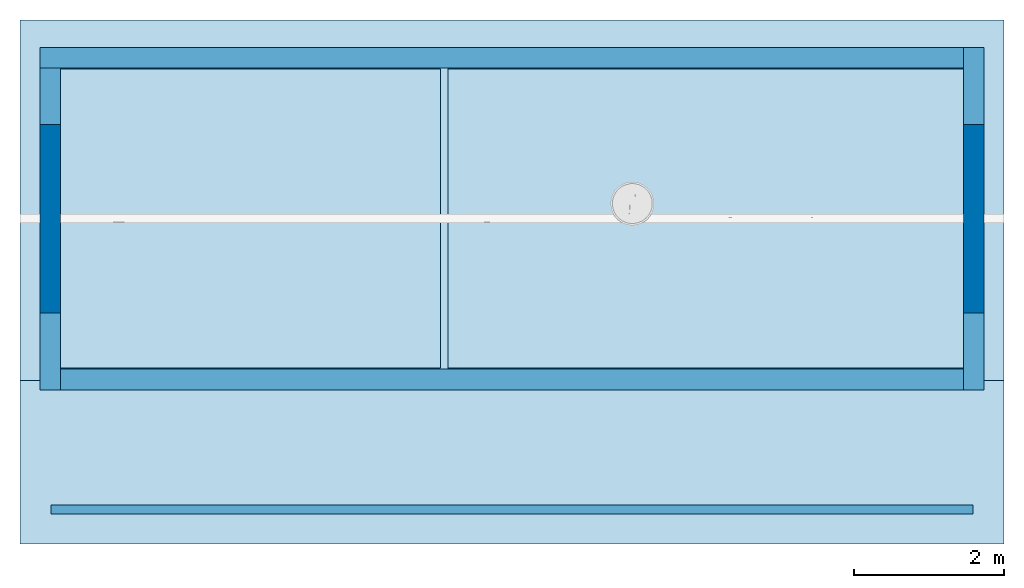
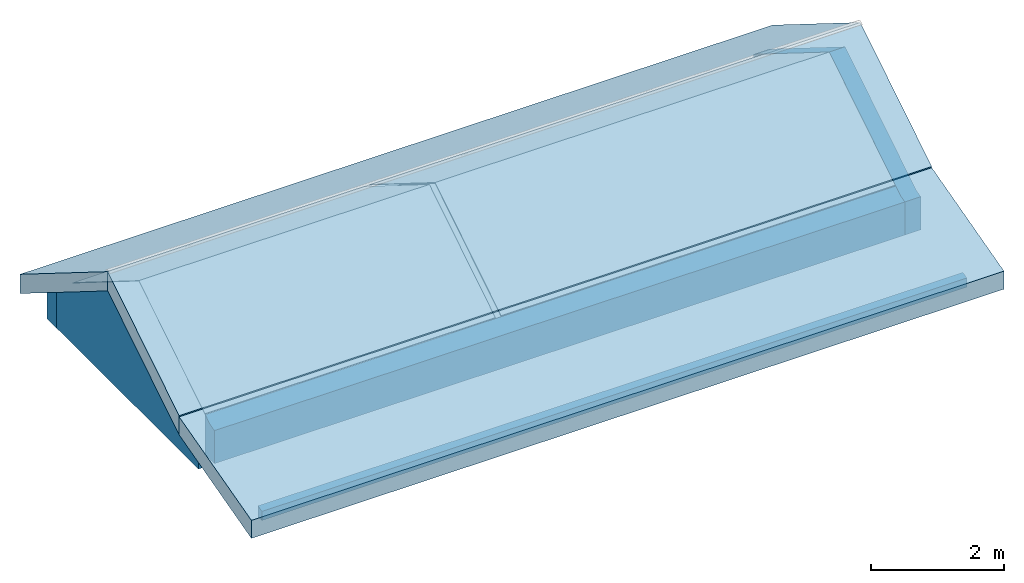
# One storey, incomplete: 8 slabs, 5 walls, 4 elements without a shape of their own.
"""IFC2X3 building model written with IfcOpenShell, lengths in millimetres."""

from ifc_helpers import new_model, entity, si_unit, converted_unit, direction, frame, frame_2d, origin, place, context, subcontext, project, spatial, polyline, rectangle, outline, extrude, clip, bounded_halfspace, material, layer, layer_set, layer_usage, type_object, element, aggregate, save


model = new_model("IFC2X3")

# Units and contexts
model_context = context("Model", 3, precision=0.01, world=origin(), true_north=direction((0.0, 1.0)))
body_context = subcontext(model_context, "Body", "Model", "MODEL_VIEW")
ifc_project = project(units=[si_unit("LENGTHUNIT", "METRE", prefix="MILLI"), si_unit("AREAUNIT", "SQUARE_METRE"), si_unit("VOLUMEUNIT", "CUBIC_METRE"), converted_unit("PLANEANGLEUNIT", "DEGREE", entity("IfcPlaneAngleMeasure", 0.017453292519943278), si_unit("PLANEANGLEUNIT", "RADIAN"), dimensions=[0, 0, 0, 0, 0, 0, 0])], contexts=[model_context])

# Site, building, storey
site_placement = place(None, origin())
site = spatial("IfcSite", under=ifc_project, at=site_placement, Name="Default", CompositionType="ELEMENT")
building_placement = place(site_placement, origin())
building = spatial("IfcBuilding", under=site, at=building_placement, CompositionType="ELEMENT")
storey_placement = place(building_placement, frame((0.0, 0.0, 3100.0)))
storey = spatial("IfcBuildingStorey", under=building, at=storey_placement, Name="Et. 2", CompositionType="ELEMENT", Elevation=3100.0)

# Roof, slabs
ifc_material_1 = material(Name="Tak - Takstein - Sort")
ifc_layer_1 = layer(ifc_material_1, 30.0)
ifc_material_2 = material(Name="Default Roof")
ifc_layer_2 = layer(ifc_material_2, 21.0)
ifc_layer_3 = layer(ifc_material_2, 36.0)
ifc_material_3 = material(Name="Tak - Tre - Sperre - Isolert")
ifc_layer_4 = layer(ifc_material_3, 200.0)
ifc_material_4 = material(Name="Poche")
ifc_layer_5 = layer(ifc_material_4, 13.000000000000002)
ifc_layer_set_1 = layer_set([ifc_layer_1, ifc_layer_2, ifc_layer_3, ifc_layer_4, ifc_layer_5], Name="Basic Roof:Taksperre, Steintekking Sort")
roof_1_placement = place(storey_placement, frame((11010.567419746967, 11703.190261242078, -664.9477407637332)))
roof_1 = element("IfcRoof", 1, at=roof_1_placement, inside=storey, material=ifc_layer_set_1, Name="Basic Roof:Taksperre, Steintekking Sort", ShapeType="NOTDEFINED")
slab_type_1 = type_object("IfcSlabType", Name="Basic Roof:Taksperre, Steintekking Sort", PredefinedType="ROOF")
slab_1_placement = place(roof_1_placement, origin())
slab_1 = element("IfcSlab", 2, at=slab_1_placement, type_object=slab_type_1, material=ifc_layer_set_1, Name="Basic Roof:Taksperre, Steintekking Sort", PredefinedType="ROOF", context=body_context, shape_type="SweptSolid", body=[
    extrude(rectangle(XDim=3113.030984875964, YDim=13080.000000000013, at=frame_2d((-9.094947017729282e-13, -2.5011104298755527e-12), x_axis=(0.0, -1.0))), frame((6540.0, 3470.0, 824.8275445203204), z_axis=(0.0, 0.5299192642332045, 0.8480480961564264), x_axis=(1.0, 0.0, 0.0)), (0.0, -0.5299192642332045, 0.8480480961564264), 353.7535210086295),
])
slab_2_placement = place(roof_1_placement, origin())
slab_2 = element("IfcSlab", 3, at=slab_2_placement, type_object=slab_type_1, material=ifc_layer_set_1, Name="Basic Roof:Taksperre, Steintekking Sort", PredefinedType="ROOF", context=body_context, shape_type="SweptSolid", body=[
    extrude(rectangle(XDim=13080.000000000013, YDim=2535.2335672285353, at=frame_2d((0.0, 0.0), x_axis=(-1.0, 0.0))), frame((6540.0, 1075.0, 977.9205357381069), z_axis=(0.0, -0.5299192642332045, 0.8480480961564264), x_axis=(1.0, 0.0, 0.0)), (0.0, 0.5299192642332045, 0.8480480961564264), 353.7535210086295),
])
aggregate(roof_1, [slab_1, slab_2])

# Roof, slab
ifc_layer_6 = layer(ifc_material_1, 50.0)
ifc_layer_7 = layer(ifc_material_2, 21.0)
ifc_layer_8 = layer(ifc_material_2, 36.0)
ifc_material_5 = material(Name="Tak - Tre - Sperre - Uisolert")
ifc_layer_9 = layer(ifc_material_5, 200.0)
ifc_layer_10 = layer(ifc_material_4, 13.000000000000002)
ifc_layer_set_2 = layer_set([ifc_layer_6, ifc_layer_7, ifc_layer_8, ifc_layer_9, ifc_layer_10], Name="Basic Roof:Taksperre, Steintekking Sort 2")
roof_2_placement = place(storey_placement, frame((11010.567419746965, 9528.190261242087, -940.0)))
roof_2 = element("IfcRoof", 4, at=roof_2_placement, inside=storey, material=ifc_layer_set_2, Name="Basic Roof:Taksperre, Steintekking Sort 2", ShapeType="NOTDEFINED")
slab_type_2 = type_object("IfcSlabType", Name="Basic Roof:Taksperre, Steintekking Sort 2", PredefinedType="ROOF")
slab_3_placement = place(roof_2_placement, origin())
slab_3 = element("IfcSlab", 5, at=slab_3_placement, type_object=slab_type_2, material=ifc_layer_set_2, Name="Basic Roof:Taksperre, Steintekking Sort 2", PredefinedType="ROOF", context=body_context, shape_type="SweptSolid", body=[
    extrude(rectangle(XDim=2251.7256923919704, YDim=13080.000000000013, at=frame_2d((9.094947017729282e-13, 0.0), x_axis=(0.0, -1.0))), frame((6540.0, 1087.500000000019, 291.39474676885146), z_axis=(0.0, -0.2588190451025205, 0.9659258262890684), x_axis=(1.0, 0.0, 0.0)), (0.0, 0.2588190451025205, 0.9659258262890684), 331.2883777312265),
])
aggregate(roof_2, [slab_3])

# Slab
ifc_material_6 = material(Name="Dekke - Spon")
ifc_layer_11 = layer(ifc_material_6, 22.0)
ifc_material_7 = material(Name="Dekke - Bjelke tre - Isolert")
ifc_layer_12 = layer(ifc_material_7, 223.0)
ifc_material_8 = material(Name="Dekke - Luftskikt")
ifc_layer_13 = layer(ifc_material_8, 23.0)
ifc_material_9 = material(Name="Dekke - Gips")
ifc_layer_14 = layer(ifc_material_9, 13.000000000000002)
ifc_layer_set_3 = layer_set([ifc_layer_11, ifc_layer_12, ifc_layer_13, ifc_layer_14], Name="Floor:25-Etasjeskille SpTISp-22_223_23_13")
ifc_layer_usage_1 = layer_usage(ifc_layer_set_3, "AXIS3", "POSITIVE", 0.0)
slab_type_3 = type_object("IfcSlabType", Name="Floor:25-Etasjeskille SpTISp-22_223_23_13", PredefinedType="FLOOR", material=ifc_layer_set_3)
slab_4_placement = place(storey_placement, origin())
element("IfcSlab", 6, at=slab_4_placement, inside=storey, type_object=slab_type_3, material=ifc_layer_usage_1, Name="Floor:25-Etasjeskille SpTISp-22_223_23_13", PredefinedType="FLOOR", context=body_context, shape_type="SweptSolid", body=[
    extrude(outline(polyline([(-1966.6666666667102, -3300.0), (2033.3333333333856, -3300.0), (2033.3333333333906, -250.0), (-66.6666666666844, -250.0), (-66.66666666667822, 3550.0), (-1966.666666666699, 3550.0), (-1966.6666666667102, -3300.0)])), frame((20000.567419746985, 13819.85692790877, -455.0), z_axis=(0.0, 0.0, -1.0), x_axis=(0.0, 1.0, 0.0)), (0.0, 0.0, 1.0), 281.0),
])

# Roof, slabs
ifc_material_10 = material(Name="Tak - Gips - Hvit")
ifc_layer_15 = layer(ifc_material_10, 13.000000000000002)
ifc_layer_set_4 = layer_set([ifc_layer_15], Name="Basic Roof:Gipsplatetak")
roof_3_placement = place(storey_placement, frame((11550.567419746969, 11865.190261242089, -273.1250000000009)))
roof_3 = element("IfcRoof", 7, at=roof_3_placement, inside=storey, material=ifc_layer_set_4, Name="Basic Roof:Gipsplatetak", ShapeType="NOTDEFINED")
slab_type_4 = type_object("IfcSlabType", Name="Basic Roof:Gipsplatetak", PredefinedType="ROOF")
slab_5_placement = place(roof_3_placement, origin())
slab_5 = element("IfcSlab", 8, at=slab_5_placement, type_object=slab_type_4, material=ifc_layer_set_4, Name="Basic Roof:Gipsplatetak", PredefinedType="ROOF", context=body_context, shape_type="SweptSolid", body=[
    extrude(rectangle(XDim=2344.2066658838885, YDim=5050.000000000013, at=frame_2d((-1.1368683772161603e-12, 0.0), x_axis=(0.0, 1.0))), frame((2525.0, 994.0, 621.1201357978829), z_axis=(0.0, -0.5299192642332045, 0.8480480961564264), x_axis=(1.0, 0.0, 0.0)), (0.0, 0.5299192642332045, 0.8480480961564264), 15.329319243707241),
])
slab_6_placement = place(roof_3_placement, origin())
slab_6 = element("IfcSlab", 9, at=slab_6_placement, type_object=slab_type_4, material=ifc_layer_set_4, Name="Basic Roof:Gipsplatetak", PredefinedType="ROOF", context=body_context, shape_type="SweptSolid", body=[
    extrude(rectangle(XDim=5050.000000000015, YDim=2344.2066658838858, at=frame_2d((-1.1368683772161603e-12, 1.3642420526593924e-12), x_axis=(1.0, 0.0))), frame((2525.0, 2982.0, 621.1201357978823), z_axis=(0.0, 0.5299192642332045, 0.8480480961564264), x_axis=(1.0, 0.0, 0.0)), (0.0, -0.5299192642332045, 0.8480480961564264), 15.329319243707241),
])
aggregate(roof_3, [slab_5, slab_6])

roof_4_placement = place(storey_placement, frame((16700.56741974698, 11865.190261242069, -273.1300000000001)))
roof_4 = element("IfcRoof", 10, at=roof_4_placement, inside=storey, material=ifc_layer_set_4, Name="Basic Roof:Gipsplatetak", ShapeType="NOTDEFINED")
slab_7_placement = place(roof_4_placement, origin())
slab_7 = element("IfcSlab", 11, at=slab_7_placement, type_object=slab_type_4, material=ifc_layer_set_4, Name="Basic Roof:Gipsplatetak", PredefinedType="ROOF", context=body_context, shape_type="SweptSolid", body=[
    extrude(rectangle(XDim=6850.0, YDim=2344.2066658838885, at=frame_2d((-1.1368683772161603e-12, -1.3642420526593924e-12), x_axis=(-1.0, 0.0))), frame((3425.0, 994.0, 621.1201357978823), z_axis=(0.0, -0.5299192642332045, 0.8480480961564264), x_axis=(1.0, 0.0, 0.0)), (0.0, 0.5299192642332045, 0.8480480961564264), 15.329319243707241),
])
slab_8_placement = place(roof_4_placement, origin())
slab_8 = element("IfcSlab", 12, at=slab_8_placement, type_object=slab_type_4, material=ifc_layer_set_4, Name="Basic Roof:Gipsplatetak", PredefinedType="ROOF", context=body_context, shape_type="SweptSolid", body=[
    extrude(rectangle(XDim=2344.206665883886, YDim=6850.0, at=frame_2d((-1.1368683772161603e-12, 0.0), x_axis=(0.0, -1.0))), frame((3425.0, 2982.0, 621.1201357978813), z_axis=(0.0, 0.5299192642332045, 0.8480480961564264), x_axis=(1.0, 0.0, 0.0)), (0.0, -0.5299192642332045, 0.8480480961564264), 15.329319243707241),
])
aggregate(roof_4, [slab_7, slab_8])

# Walls
ifc_material_11 = material(Name="Vegg - Liggende Kledning - GRÅ")
ifc_layer_16 = layer(ifc_material_11, 19.0)
ifc_material_12 = material(Name="Default Floor")
ifc_layer_17 = layer(ifc_material_12, 48.0)
ifc_layer_18 = layer(ifc_material_12, 48.0)
ifc_layer_19 = layer(ifc_material_12, 12.0)
ifc_material_13 = material(Name="Vegg - Stender - Isolert")
ifc_layer_20 = layer(ifc_material_13, 150.0)
ifc_layer_set_5 = layer_set([ifc_layer_16, ifc_layer_17, ifc_layer_18, ifc_layer_19, ifc_layer_20], Name="Basic Wall:Yttervegg liggende kl grå")
ifc_layer_usage_2 = layer_usage(ifc_layer_set_5, "AXIS2", "NEGATIVE", 138.50000000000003)
wall_type_1 = type_object("IfcWallType", Name="Basic Wall:Yttervegg liggende kl grå", PredefinedType="STANDARD", material=ifc_layer_set_5)
wall_1_placement = place(storey_placement, frame((11273.567419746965, 15991.690261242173, -1000.0)))
element("IfcWallStandardCase", 13, at=wall_1_placement, inside=storey, type_object=wall_type_1, material=ifc_layer_usage_2, Name="Basic Wall:Yttervegg liggende kl grå", context=body_context, shape_type="Clipping", body=[
    clip(extrude(rectangle(XDim=12277.000000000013, YDim=277.000000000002, at=frame_2d((6138.500000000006, 0.0), x_axis=(-1.0, 0.0))), origin(), (0.0, 0.0, 1.0), 734.9686444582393), bounded_halfspace(frame((0.0, -138.49999999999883, 734.9686444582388), z_axis=(0.0, 0.5299192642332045, 0.8480480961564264), x_axis=(-1.0, 0.0, 0.0)), False, frame((0.0, -138.49999999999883, 734.9686444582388)), polyline([(0.0, 0.0), (277.0, 0.0), (5327.0, 0.0), (5427.0, 0.0), (12277.0, 0.0), (12277.0, 277.0), (0.0, 277.0), (0.0, 0.0)]))),
])
ifc_layer_usage_3 = layer_usage(ifc_layer_set_5, "AXIS2", "NEGATIVE", 138.50000000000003)
wall_2_placement = place(storey_placement, frame((23550.567419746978, 11714.690261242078, -1000.0), z_axis=(0.0, 0.0, 1.0), x_axis=(-1.0, 0.0, 0.0)))
element("IfcWallStandardCase", 14, at=wall_2_placement, inside=storey, type_object=wall_type_1, material=ifc_layer_usage_3, Name="Basic Wall:Yttervegg liggende kl grå", context=body_context, shape_type="Clipping", body=[
    clip(clip(extrude(rectangle(XDim=12000.000000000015, YDim=277.000000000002, at=frame_2d((6000.000000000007, 0.0), x_axis=(-1.0, 0.0))), origin(), (0.0, 0.0, 1.0), 734.9686444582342), bounded_halfspace(frame((12000.0, 11.499999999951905, 642.7894935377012), z_axis=(0.0, 0.2588190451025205, 0.9659258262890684), x_axis=(-1.0, 0.0, 0.0)), False, frame((12000.0, 11.499999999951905, 642.7894935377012)), polyline([(0.0, 0.0), (0.0, 127.0), (-12000.0, 127.0), (-12000.0, 0.0), (0.0, 0.0)]))), bounded_halfspace(frame((0.0, -138.49999999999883, 734.9686444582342), z_axis=(0.0, 0.5299192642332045, 0.8480480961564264), x_axis=(-1.0, 0.0, 0.0)), False, frame((0.0, -138.49999999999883, 734.9686444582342)), polyline([(0.0, 0.0), (6850.0, 0.0), (6950.0, 0.0), (12000.0, 0.0), (12000.0, 150.0), (0.0, 150.0), (0.0, 0.0)]))),
])
ifc_layer_usage_4 = layer_usage(ifc_layer_set_5, "AXIS2", "NEGATIVE", 138.50000000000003)
wall_3_placement = place(storey_placement, frame((23689.06741974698, 16130.190261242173, -1000.0), z_axis=(0.0, 0.0, 1.0), x_axis=(0.0, -1.0, 0.0)))
element("IfcWallStandardCase", 15, at=wall_3_placement, inside=storey, type_object=wall_type_1, material=ifc_layer_usage_4, Name="Basic Wall:Yttervegg liggende kl grå", context=body_context, shape_type="Clipping", body=[
    clip(clip(clip(extrude(rectangle(XDim=4554.000000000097, YDim=276.99999999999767, at=frame_2d((2277.0000000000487, 0.0), x_axis=(-1.0, 0.0))), origin(), (0.0, 0.0, 1.0), 1984.7073482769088), bounded_halfspace(frame((0.0, -138.50000000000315, 561.8798339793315), z_axis=(-0.5299192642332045, 0.0, 0.8480480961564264), x_axis=(0.0, -1.0, 0.0)), False, frame((0.0, -138.50000000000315, 561.8798339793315)), polyline([(0.0, 0.0), (277.0, 0.0), (2277.0, 0.0), (2277.0, 277.0), (0.0, 277.0), (0.0, 0.0)]))), bounded_halfspace(frame((4427.0, -138.50000000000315, 642.7894935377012), z_axis=(0.2588190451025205, 0.0, 0.9659258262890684), x_axis=(0.0, 1.0, 0.0)), False, frame((4427.0, -138.50000000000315, 642.7894935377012)), polyline([(0.0, 0.0), (127.0, 0.0), (127.0, 277.0), (0.0, 277.0), (0.0, 0.0)]))), bounded_halfspace(frame((2277.0, -138.50000000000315, 1984.7073482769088), z_axis=(0.5299192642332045, 0.0, 0.8480480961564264), x_axis=(0.0, 1.0, 0.0)), False, frame((2277.0, -138.50000000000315, 1984.7073482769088)), polyline([(0.0, 0.0), (2000.0, 0.0), (2150.0, 0.0), (2150.0, 277.0), (0.0, 277.0), (0.0, 0.0)]))),
])
ifc_layer_usage_5 = layer_usage(ifc_layer_set_5, "AXIS2", "NEGATIVE", 138.50000000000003)
wall_4_placement = place(storey_placement, frame((11412.067419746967, 11576.190261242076, -1000.0), z_axis=(0.0, 0.0, 1.0), x_axis=(0.0, 1.0, 0.0)))
element("IfcWallStandardCase", 16, at=wall_4_placement, inside=storey, type_object=wall_type_1, material=ifc_layer_usage_5, Name="Basic Wall:Yttervegg liggende kl grå", context=body_context, shape_type="Clipping", body=[
    clip(clip(clip(extrude(rectangle(XDim=4277.000000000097, YDim=277.000000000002, at=frame_2d((2138.5000000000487, 0.0), x_axis=(-1.0, 0.0))), origin(), (0.0, 0.0, 1.0), 1984.70734827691), bounded_halfspace(frame((2277.0, -138.49999999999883, 1984.7073482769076), z_axis=(0.5299192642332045, 0.0, 0.8480480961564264), x_axis=(0.0, 1.0, 0.0)), False, frame((2277.0, -138.49999999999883, 1984.7073482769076)), polyline([(0.0, 0.0), (2000.0, 0.0), (2000.0, 277.0), (0.0, 277.0), (0.0, 0.0)]))), bounded_halfspace(frame((0.0, -138.49999999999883, 608.7599460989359), z_axis=(-0.2588190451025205, 0.0, 0.9659258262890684), x_axis=(0.0, -1.0, 0.0)), False, frame((0.0, -138.49999999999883, 608.7599460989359)), polyline([(0.0, 0.0), (127.0, 0.0), (127.0, 277.0), (0.0, 277.0), (0.0, 0.0)]))), bounded_halfspace(frame((127.0, -138.49999999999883, 641.2382416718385), z_axis=(-0.5299192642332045, 0.0, 0.8480480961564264), x_axis=(0.0, -1.0, 0.0)), False, frame((127.0, -138.49999999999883, 641.2382416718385)), polyline([(0.0, 0.0), (150.0, 0.0), (2150.0, 0.0), (2150.0, 277.0), (0.0, 277.0), (0.0, 0.0)]))),
])
ifc_material_14 = material(Name="Maling mørkegrå(1)")
ifc_layer_21 = layer(ifc_material_14, 120.0)
ifc_layer_set_6 = layer_set([ifc_layer_21], Name="Basic Wall:Bjelke 2")
ifc_layer_usage_6 = layer_usage(ifc_layer_set_6, "AXIS2", "NEGATIVE", 60.0)
wall_type_2 = type_object("IfcWallType", Name="Basic Wall:Bjelke 2", PredefinedType="STANDARD", material=ifc_layer_set_6)
wall_5_placement = place(storey_placement, frame((23676.56741974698, 9988.190261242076, -1000.0), z_axis=(0.0, 0.0, 1.0), x_axis=(-1.0, 0.0, 0.0)))
element("IfcWallStandardCase", 17, at=wall_5_placement, inside=storey, type_object=wall_type_2, material=ifc_layer_usage_6, Name="Basic Wall:Bjelke 2", context=body_context, shape_type="Clipping", body=[
    clip(extrude(rectangle(XDim=12252.000000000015, YDim=119.9999999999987, at=frame_2d((6126.000000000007, -3.907985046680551e-14), x_axis=(-1.0, 0.0))), origin(), (0.0, 0.0, 1.0), 199.33358006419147), bounded_halfspace(frame((0.0, -60.0, 199.33358006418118), z_axis=(0.0, 0.2588190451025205, 0.9659258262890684), x_axis=(-1.0, 0.0, 0.0)), False, frame((0.0, -60.0, 199.33358006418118)), polyline([(0.0, 0.0), (12252.0, 0.0), (12252.0, 120.0), (0.0, 120.0), (0.0, 0.0)]))),
])

save(model, "model.ifc")
